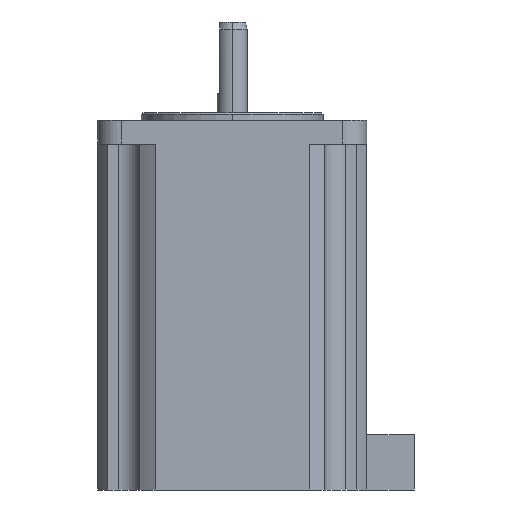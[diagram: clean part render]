
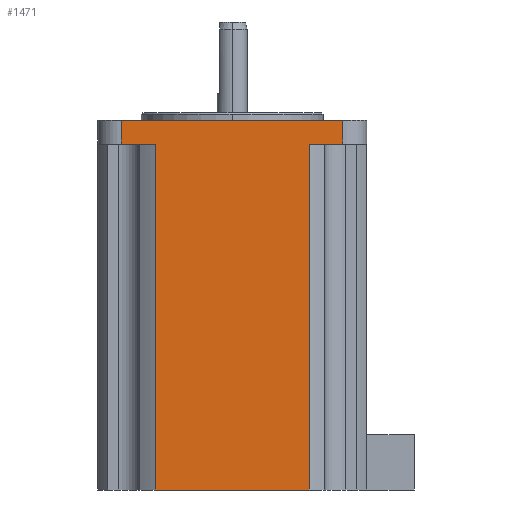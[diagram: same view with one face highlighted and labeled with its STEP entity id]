
A CAD part, left-side view. The second image highlights one B-rep face of the part: STEP entity #1471.
In plain terms, the highlighted planar face has unit normal (-1, 0, 0).
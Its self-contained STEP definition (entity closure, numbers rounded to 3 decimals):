
#27 = ORIENTED_EDGE ( 'NONE', *, *, #334, .T. ) ;
#78 = CARTESIAN_POINT ( 'NONE',  ( -28.2, 28.2, -6.6 ) ) ;
#129 = EDGE_CURVE ( 'NONE', #2031, #1728, #1859, .T. ) ;
#153 = DIRECTION ( 'NONE',  ( 0., 1., 0. ) ) ;
#202 = ORIENTED_EDGE ( 'NONE', *, *, #381, .F. ) ;
#205 = EDGE_CURVE ( 'NONE', #1245, #723, #589, .T. ) ;
#214 = CARTESIAN_POINT ( 'NONE',  ( -28.2, 23.2, -6.6 ) ) ;
#236 = VECTOR ( 'NONE', #1939, 1000. ) ;
#294 = VECTOR ( 'NONE', #446, 1000. ) ;
#300 = LINE ( 'NONE', #78, #236 ) ;
#323 = ORIENTED_EDGE ( 'NONE', *, *, #520, .F. ) ;
#334 = EDGE_CURVE ( 'NONE', #1245, #1467, #1737, .T. ) ;
#368 = CARTESIAN_POINT ( 'NONE',  ( -28.2, 0., -79.1 ) ) ;
#381 = EDGE_CURVE ( 'NONE', #2018, #1217, #300, .T. ) ;
#413 = ORIENTED_EDGE ( 'NONE', *, *, #607, .T. ) ;
#433 = LINE ( 'NONE', #214, #1842 ) ;
#446 = DIRECTION ( 'NONE',  ( 0., 1., 0. ) ) ;
#451 = VECTOR ( 'NONE', #153, 1000. ) ;
#465 = AXIS2_PLACEMENT_3D ( 'NONE', #945, #745, #526 ) ;
#520 = EDGE_CURVE ( 'NONE', #723, #2018, #1058, .T. ) ;
#526 = DIRECTION ( 'NONE',  ( 0., 1., 0. ) ) ;
#589 = LINE ( 'NONE', #368, #451 ) ;
#607 = EDGE_CURVE ( 'NONE', #1728, #1920, #856, .T. ) ;
#627 = FACE_OUTER_BOUND ( 'NONE', #1856, .T. ) ;
#632 = DIRECTION ( 'NONE',  ( 0., 0., 1. ) ) ;
#653 = CARTESIAN_POINT ( 'NONE',  ( -28.2, 28.2, -6.6 ) ) ;
#723 = VERTEX_POINT ( 'NONE', #1682 ) ;
#745 = DIRECTION ( 'NONE',  ( 1., 0., 0. ) ) ;
#843 = CARTESIAN_POINT ( 'NONE',  ( -28.2, 16.156, -79.1 ) ) ;
#856 = LINE ( 'NONE', #1877, #892 ) ;
#892 = VECTOR ( 'NONE', #1669, 1000. ) ;
#943 = CARTESIAN_POINT ( 'NONE',  ( -28.2, 23.2, -1.6 ) ) ;
#945 = CARTESIAN_POINT ( 'NONE',  ( -28.2, 28.2, -6.6 ) ) ;
#964 = ORIENTED_EDGE ( 'NONE', *, *, #205, .F. ) ;
#1058 = LINE ( 'NONE', #843, #1750 ) ;
#1083 = DIRECTION ( 'NONE',  ( 0., 0., 1. ) ) ;
#1158 = CARTESIAN_POINT ( 'NONE',  ( -28.2, -16.156, -6.6 ) ) ;
#1167 = ORIENTED_EDGE ( 'NONE', *, *, #1171, .F. ) ;
#1170 = CARTESIAN_POINT ( 'NONE',  ( -28.2, -23.2, -6.6 ) ) ;
#1171 = EDGE_CURVE ( 'NONE', #2031, #1467, #1502, .T. ) ;
#1217 = VERTEX_POINT ( 'NONE', #1351 ) ;
#1245 = VERTEX_POINT ( 'NONE', #1746 ) ;
#1286 = VECTOR ( 'NONE', #1083, 1000. ) ;
#1292 = CARTESIAN_POINT ( 'NONE',  ( -28.2, -16.156, -79.1 ) ) ;
#1351 = CARTESIAN_POINT ( 'NONE',  ( -28.2, 23.2, -6.6 ) ) ;
#1424 = DIRECTION ( 'NONE',  ( 0., 0., 1. ) ) ;
#1467 = VERTEX_POINT ( 'NONE', #1158 ) ;
#1471 = ADVANCED_FACE ( 'NONE', ( #627 ), #1597, .F. ) ;
#1502 = LINE ( 'NONE', #653, #294 ) ;
#1565 = VECTOR ( 'NONE', #1424, 1000. ) ;
#1585 = CARTESIAN_POINT ( 'NONE',  ( -28.2, -23.2, -1.6 ) ) ;
#1597 = PLANE ( 'NONE',  #465 ) ;
#1607 = CARTESIAN_POINT ( 'NONE',  ( -28.2, 16.156, -6.6 ) ) ;
#1640 = CARTESIAN_POINT ( 'NONE',  ( -28.2, -23.2, -6.6 ) ) ;
#1669 = DIRECTION ( 'NONE',  ( 0., 1., 0. ) ) ;
#1682 = CARTESIAN_POINT ( 'NONE',  ( -28.2, 16.156, -79.1 ) ) ;
#1728 = VERTEX_POINT ( 'NONE', #1585 ) ;
#1737 = LINE ( 'NONE', #1292, #1286 ) ;
#1746 = CARTESIAN_POINT ( 'NONE',  ( -28.2, -16.156, -79.1 ) ) ;
#1750 = VECTOR ( 'NONE', #632, 1000. ) ;
#1842 = VECTOR ( 'NONE', #2066, 1000. ) ;
#1856 = EDGE_LOOP ( 'NONE', ( #1167, #1861, #413, #1892, #202, #323, #964, #27 ) ) ;
#1859 = LINE ( 'NONE', #1640, #1565 ) ;
#1861 = ORIENTED_EDGE ( 'NONE', *, *, #129, .T. ) ;
#1877 = CARTESIAN_POINT ( 'NONE',  ( -28.2, 28.2, -1.6 ) ) ;
#1892 = ORIENTED_EDGE ( 'NONE', *, *, #1967, .T. ) ;
#1920 = VERTEX_POINT ( 'NONE', #943 ) ;
#1939 = DIRECTION ( 'NONE',  ( 0., 1., 0. ) ) ;
#1967 = EDGE_CURVE ( 'NONE', #1920, #1217, #433, .T. ) ;
#2018 = VERTEX_POINT ( 'NONE', #1607 ) ;
#2031 = VERTEX_POINT ( 'NONE', #1170 ) ;
#2066 = DIRECTION ( 'NONE',  ( 0., 0., -1. ) ) ;
